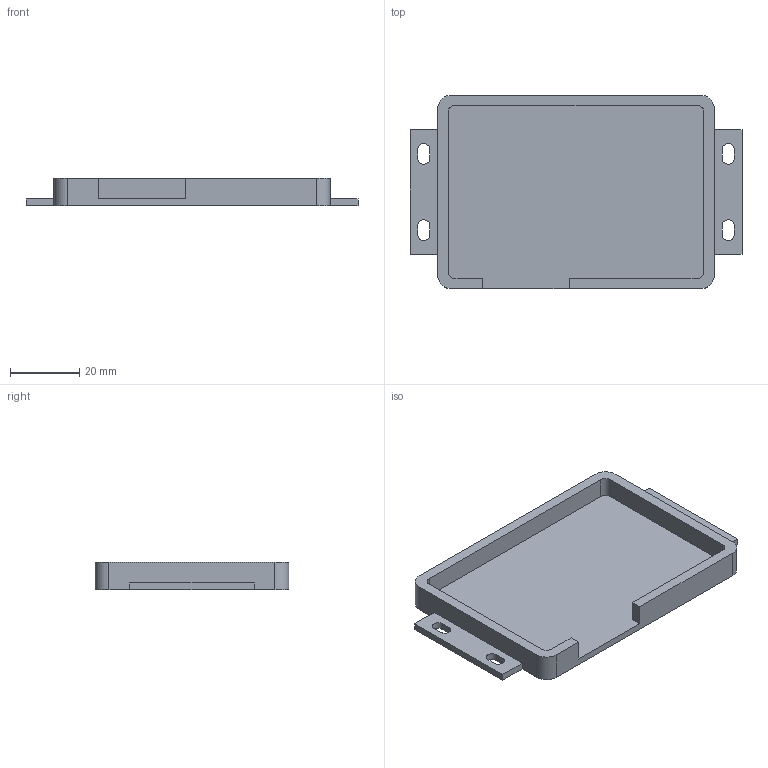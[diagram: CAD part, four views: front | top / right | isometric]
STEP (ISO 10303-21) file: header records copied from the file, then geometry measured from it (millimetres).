
FILE_DESCRIPTION(('Open CASCADE Model'),'2;1');
FILE_NAME('Open CASCADE Shape Model','2026-10-05T19:39:43',('Author'),( 'Open CASCADE'),'Open CASCADE STEP processor 7.8','Open CASCADE 7.8' ,'Unknown');
FILE_SCHEMA(('AUTOMOTIVE_DESIGN { 1 0 10303 214 1 1 1 1 }'));
Length unit declared in the file: millimetre
Products named in the file (1): Open CASCADE STEP translator 7.8 4
Bounding box: 96 x 56 x 8 mm (x, y, z)
Volume: 14105.8 mm3; surface area: 13454 mm2
Topology: 1 solids, 1 shells, 46 faces, 132 edges, 88 vertices
Faces by surface type: plane 30, cylinder 16
Entity records: 3257 total; most frequent: CARTESIAN_POINT 704, DIRECTION 449, LINE 279, VECTOR 279, ORIENTED_EDGE 264, PCURVE 264, DEFINITIONAL_REPRESENTATION 264, EDGE_CURVE 132
